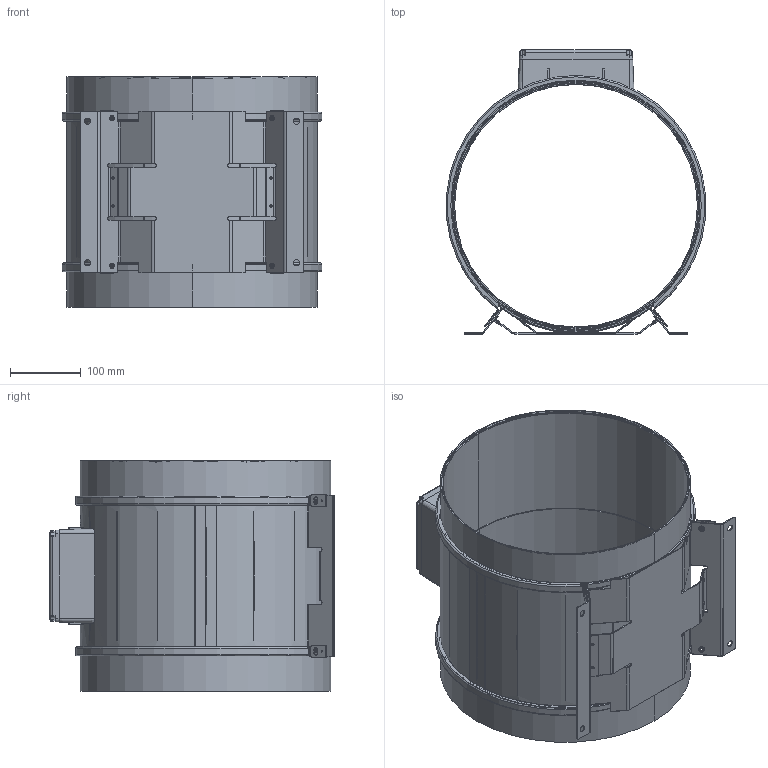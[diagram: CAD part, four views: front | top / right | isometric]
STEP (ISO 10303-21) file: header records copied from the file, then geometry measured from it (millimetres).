
FILE_DESCRIPTION (( 'STEP AP203' ), '1' );
FILE_NAME ('130712-02_EM355EC01.STEP', '2015-03-02T09:11:08', ( '' ), ( '' ), 'SwSTEP 2.0', 'SolidWorks 2012', '' );
FILE_SCHEMA (( 'CONFIG_CONTROL_DESIGN' ));
Length unit declared in the file: millimetre
Products named in the file (1): 130712-02_EM355EC01
Bounding box: 366.09 x 401.29 x 325 mm (x, y, z)
Surface area: 1011352.7 mm2 (no closed solid volume)
Topology: 0 solids, 13 shells, 680 faces, 3091 edges, 2303 vertices
Faces by surface type: plane 245, cylinder 244, bspline 80, torus 73, cone 38
Entity records: 40612 total; most frequent: CARTESIAN_POINT 17232, DIRECTION 4494, ORIENTED_EDGE 4484, EDGE_CURVE 3083, VERTEX_POINT 2303, VECTOR 1592, LINE 1592, AXIS2_PLACEMENT_3D 1451
